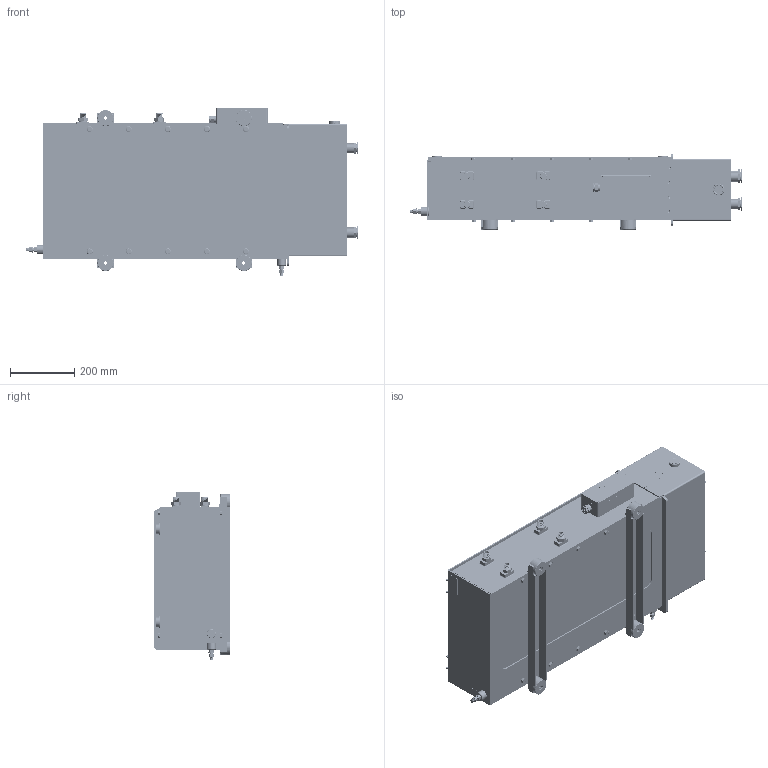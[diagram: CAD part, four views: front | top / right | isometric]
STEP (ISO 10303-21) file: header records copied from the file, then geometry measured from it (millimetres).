
FILE_DESCRIPTION (( 'STEP AP214' ), '1' );
FILE_NAME ('倳昃-2.STEP', '2025-08-08T14:19:49', ( '' ), ( '' ), 'SwSTEP 2.0', 'SolidWorks 2024', '' );
FILE_SCHEMA (( 'AUTOMOTIVE_DESIGN' ));
Length unit declared in the file: millimetre
Products named in the file (1): РСМК-2
Bounding box: 1030.26 x 235.48 x 523 mm (x, y, z)
Volume: 47453249.9 mm3; surface area: 15573296.4 mm2
Topology: 510 solids, 510 shells, 16721 faces, 42000 edges, 26672 vertices
Faces by surface type: cylinder 8378, plane 5743, cone 1020, torus 986, bspline 554, sphere 40
Entity records: 785394 total; most frequent: CARTESIAN_POINT 397468, ORIENTED_EDGE 83328, DIRECTION 77614, EDGE_CURVE 41664, AXIS2_PLACEMENT_3D 29094, VERTEX_POINT 26672, VECTOR 19426, LINE 19426
